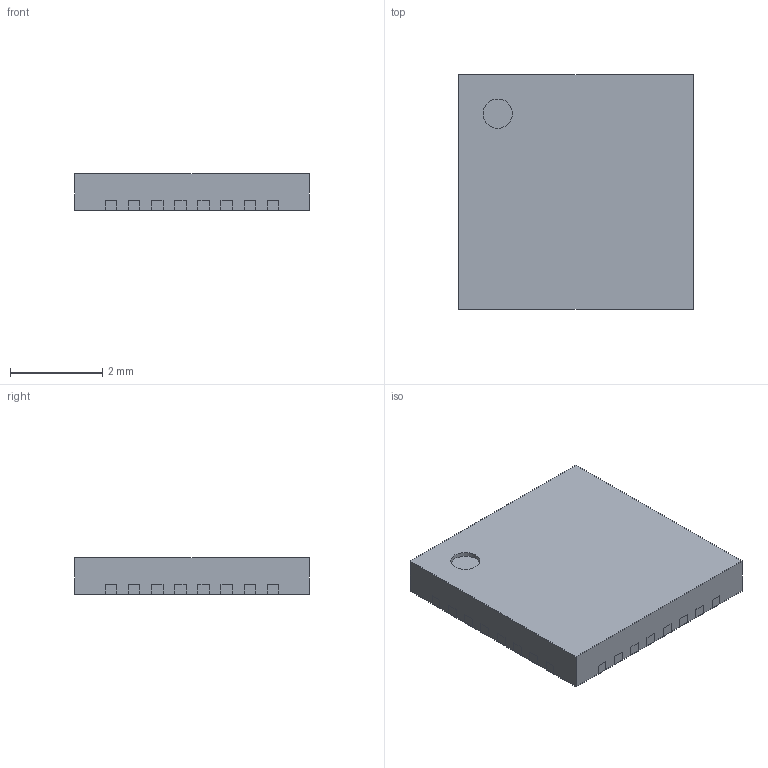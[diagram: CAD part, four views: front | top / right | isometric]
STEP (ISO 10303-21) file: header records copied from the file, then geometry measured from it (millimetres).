
FILE_DESCRIPTION(('Open CASCADE Model'),'2;1');
FILE_NAME('Open CASCADE Shape Model','2022-11-14T13:40:45',('Author'),( 'Open CASCADE'),'Open CASCADE STEP processor 6.8','Open CASCADE 6.8' ,'Unknown');
FILE_SCHEMA(('AUTOMOTIVE_DESIGN_CC2 { 1 2 10303 214 -1 1 5 4 }'));
Length unit declared in the file: millimetre
Products named in the file (7): QFN50P500X500X80_HS-33N.step; Open CASCADE STEP translator 6.8 13.1; Body; Open CASCADE STEP translator 6.8 13.2.1; Thermal_Shape; Pin_Shape; Open CASCADE STEP translator 6.8 13.4.1
Assembly tree (37 placements, depth 3):
  QFN50P500X500X80_HS-33N.step
    Open CASCADE STEP translator 6.8 13.1
    Body
      Open CASCADE STEP translator 6.8 13.2.1
    Thermal_Shape
    Pin_Shape  x32
      Open CASCADE STEP translator 6.8 13.4.1
Bounding box: 5.1 x 5.1 x 0.8 mm (x, y, z)
Volume: 20.8 mm3; surface area: 102.8 mm2
Topology: 34 solids, 35 shells, 464 faces, 927 edges, 533 vertices
Faces by surface type: plane 463, cylinder 1
Full cylindrical faces by diameter (mm): 0.637 x1
Entity records: 1916 total; most frequent: DIRECTION 312, CARTESIAN_POINT 289, LINE 168, VECTOR 168, ORIENTED_EDGE 117, PCURVE 117, DEFINITIONAL_REPRESENTATION 117, AXIS2_PLACEMENT_3D 71
